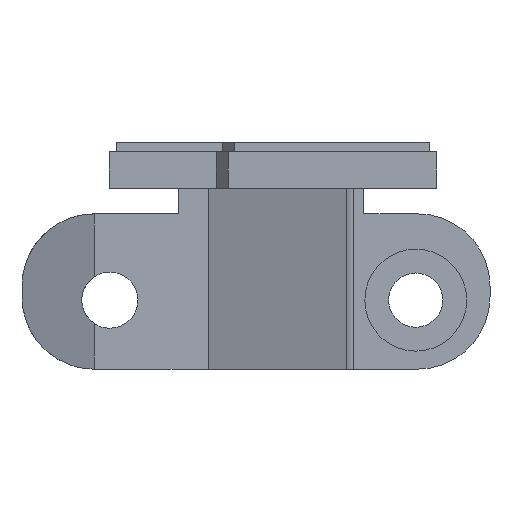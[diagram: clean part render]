
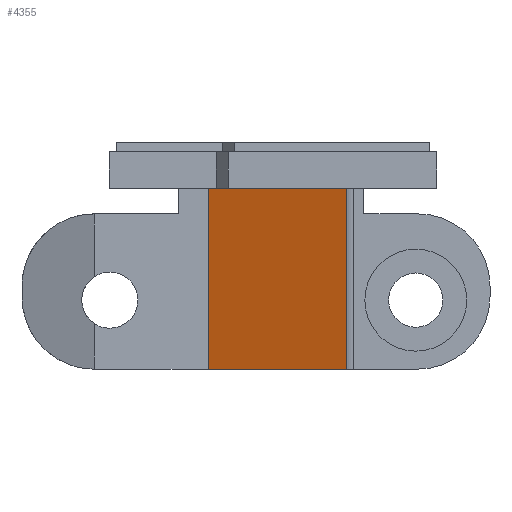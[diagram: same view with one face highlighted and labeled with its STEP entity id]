
A CAD part, left-side view. The second image highlights one B-rep face of the part: STEP entity #4355.
In plain terms, the highlighted planar face has unit normal (-0.934, 0.358, 0).
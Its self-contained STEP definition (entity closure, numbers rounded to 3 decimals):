
#101 = CARTESIAN_POINT ( 'NONE',  ( 253.3, 194.822, 28.1 ) ) ;
#234 = AXIS2_PLACEMENT_3D ( 'NONE', #4361, #4810, #1960 ) ;
#259 = VERTEX_POINT ( 'NONE', #3715 ) ;
#413 = VECTOR ( 'NONE', #686, 1000. ) ;
#476 = LINE ( 'NONE', #3567, #413 ) ;
#633 = EDGE_CURVE ( 'NONE', #259, #3520, #476, .T. ) ;
#686 = DIRECTION ( 'NONE',  ( 0., 0., 1. ) ) ;
#1217 = CARTESIAN_POINT ( 'NONE',  ( 253.3, 194.822, 8.1 ) ) ;
#1532 = LINE ( 'NONE', #1217, #1786 ) ;
#1749 = DIRECTION ( 'NONE',  ( 0., 0., -1. ) ) ;
#1773 = CARTESIAN_POINT ( 'NONE',  ( 247.433, 179.532, 28.1 ) ) ;
#1784 = CARTESIAN_POINT ( 'NONE',  ( 253.3, 194.822, 27.6 ) ) ;
#1786 = VECTOR ( 'NONE', #3206, 1000. ) ;
#1960 = DIRECTION ( 'NONE',  ( -0.358, -0.934, 0. ) ) ;
#1984 = CARTESIAN_POINT ( 'NONE',  ( 253.3, 194.822, 8.1 ) ) ;
#2374 = DIRECTION ( 'NONE',  ( -0.358, -0.934, 0. ) ) ;
#2465 = FACE_OUTER_BOUND ( 'NONE', #3121, .T. ) ;
#2823 = ORIENTED_EDGE ( 'NONE', *, *, #4313, .T. ) ;
#2829 = CARTESIAN_POINT ( 'NONE',  ( 253.3, 194.822, 28.1 ) ) ;
#3121 = EDGE_LOOP ( 'NONE', ( #2823, #4895, #4759, #5138 ) ) ;
#3206 = DIRECTION ( 'NONE',  ( -0.358, -0.934, 0. ) ) ;
#3441 = VERTEX_POINT ( 'NONE', #101 ) ;
#3520 = VERTEX_POINT ( 'NONE', #1773 ) ;
#3567 = CARTESIAN_POINT ( 'NONE',  ( 247.433, 179.532, 27.6 ) ) ;
#3626 = LINE ( 'NONE', #2829, #5121 ) ;
#3715 = CARTESIAN_POINT ( 'NONE',  ( 247.433, 179.532, 8.1 ) ) ;
#3743 = EDGE_CURVE ( 'NONE', #3441, #4949, #4311, .T. ) ;
#4031 = PLANE ( 'NONE',  #234 ) ;
#4311 = LINE ( 'NONE', #1784, #4478 ) ;
#4313 = EDGE_CURVE ( 'NONE', #4949, #259, #1532, .T. ) ;
#4355 = ADVANCED_FACE ( 'NONE', ( #2465 ), #4031, .T. ) ;
#4361 = CARTESIAN_POINT ( 'NONE',  ( 253.3, 194.822, 27.6 ) ) ;
#4478 = VECTOR ( 'NONE', #1749, 1000. ) ;
#4759 = ORIENTED_EDGE ( 'NONE', *, *, #4981, .F. ) ;
#4810 = DIRECTION ( 'NONE',  ( -0.934, 0.358, 0. ) ) ;
#4895 = ORIENTED_EDGE ( 'NONE', *, *, #633, .T. ) ;
#4949 = VERTEX_POINT ( 'NONE', #1984 ) ;
#4981 = EDGE_CURVE ( 'NONE', #3441, #3520, #3626, .T. ) ;
#5121 = VECTOR ( 'NONE', #2374, 1000. ) ;
#5138 = ORIENTED_EDGE ( 'NONE', *, *, #3743, .T. ) ;
